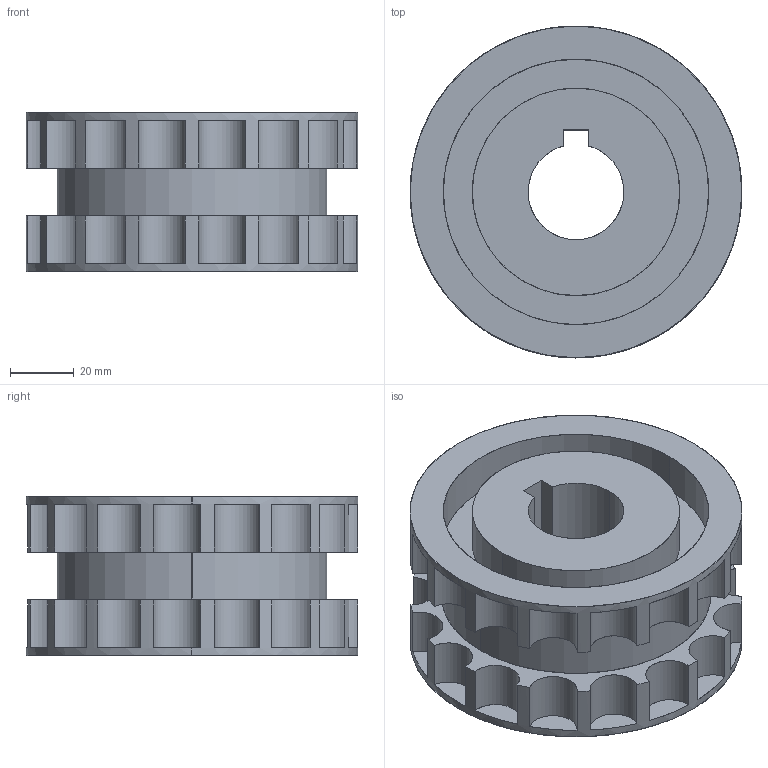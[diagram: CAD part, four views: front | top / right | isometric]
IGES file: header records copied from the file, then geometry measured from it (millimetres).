
Start section: SolidWorks IGES file using analytic representation for surfaces
Global section: file name: C:\Documents and Settings\URETIM3\Desktop\yeni katalog tolgay\328 KI1 217.IGS; native system: SolidWorks 2006 by SolidWorks Corporation; preprocessor: SolidWorks 2006 by SolidWorks Corporation; author: URETIM3; date: 061108.110516; units: millimetre
Bounding box: 104 x 104 x 50 mm (x, y, z)
Surface area: 57819.2 mm2 (no closed solid volume)
Topology: 0 solids, 0 shells, 112 faces, 2612 edges, 2612 vertices
Faces by surface type: revolution 67, bspline 45
